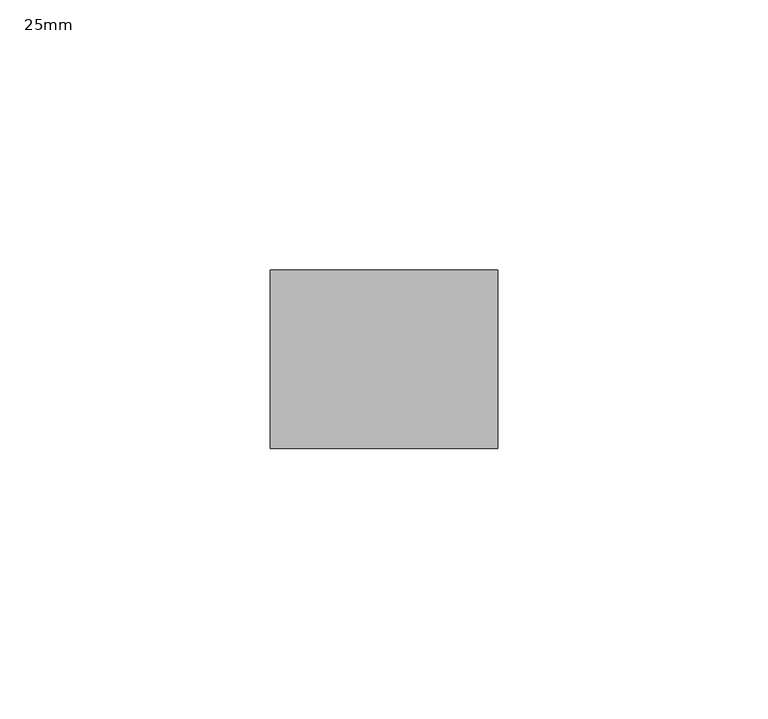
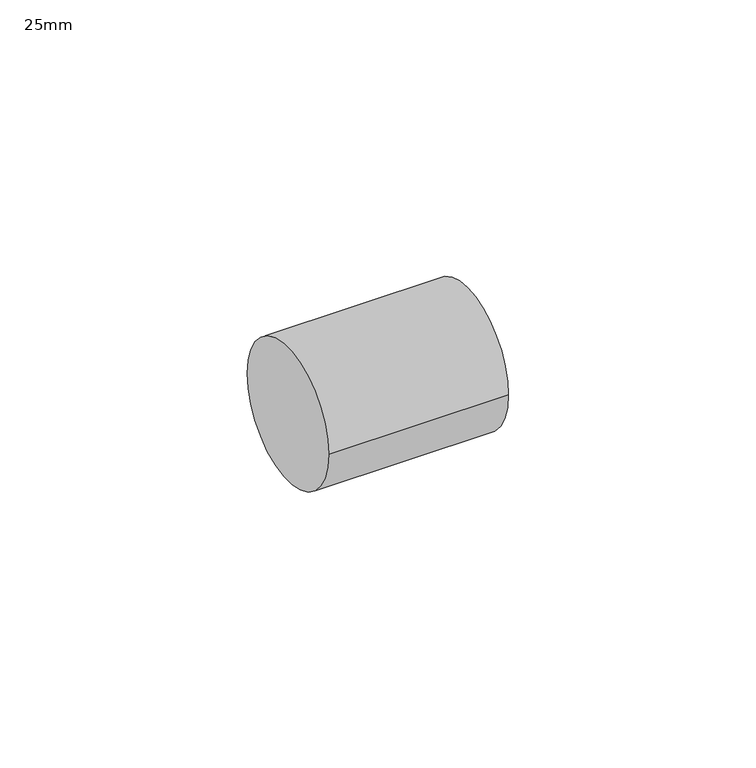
"""IFC4 building model written with IfcOpenShell, lengths in millimetres: pipe fitting geometry, PipeFitting_HTA_CPVC_Couplings : 25mm."""

from ifc_helpers import new_model, si_unit, point, frame, origin, origin_2d, place, context, project, spatial, circle_curve, trimmed, segment, composite_curve, outline, extrude, source, transform, mapped, element, save


def pipe_fitting_25mm_d2b8e11e(model_context):
    return source(origin(), model_context, "Body", "SweptSolid", [
        extrude(outline(composite_curve([segment(trimmed(circle_curve(origin_2d(), 16.5), [point((-16.5, 0.0))], [point((16.5, 0.0))], False, "CARTESIAN"), True, "CONTINUOUS"), segment(trimmed(circle_curve(origin_2d(), 16.5), [point((16.5, 0.0))], [point((-16.5, 0.0))], False, "CARTESIAN"), True, "CONTINUOUS")], self_intersect=False)), frame((-21.0, 0.0, 0.0), z_axis=(1.0, 0.0, 0.0), x_axis=(0.0, 1.0, 0.0)), (0.0, 0.0, 1.0), 42.0),
    ])


if __name__ == "__main__":
    model = new_model("IFC4")
    model_context = context("Model", 3, world=origin())
    ifc_project = project(units=[si_unit("LENGTHUNIT", "METRE", prefix="MILLI")], contexts=[model_context])
    site = spatial("IfcSite", under=ifc_project)
    building = spatial("IfcBuilding", under=site)
    placement = place(None, origin())
    pipe_fitting_25mm_shape = pipe_fitting_25mm_d2b8e11e(model_context)
    element("IfcPipeFitting", 1, ObjectType="PipeFitting_HTA_CPVC_Couplings : 25mm", at=placement, inside=building, context=model_context, shape_type="MappedRepresentation", body=[
        mapped(pipe_fitting_25mm_shape, transform((0.0, 0.0, 0.0), x_axis=(1.0, 0.0, 0.0), y_axis=(0.0, 1.0, 0.0), z_axis=(0.0, 0.0, 1.0))),
    ])
    save(model, "model.ifc")
